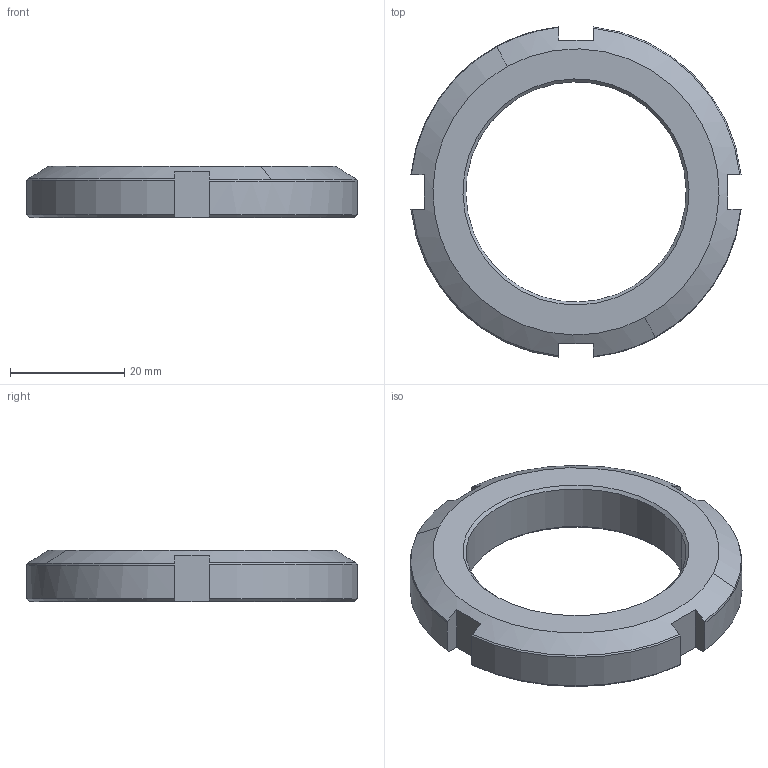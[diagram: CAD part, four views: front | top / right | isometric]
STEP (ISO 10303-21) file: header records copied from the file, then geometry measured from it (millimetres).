
FILE_DESCRIPTION(('CATIA V5 STEP Exchange'),'2;1');
FILE_NAME('\\Kjf-102\kjf_tc\Hydraulic_Clamp\Standard\Mounting Base Accessories\MBR\MBR-4009_-\MBR-4009_-_.stp','2026-08-10T04:03:04+00:00',('none'),('none'),'CATIA Version 5 Release 19 SP 6 (IN-10)','CATIA V5 STEP AP203','none');
FILE_SCHEMA(('CONFIG_CONTROL_DESIGN'));
Length unit declared in the file: millimetre
Products named in the file (1): MBR-4010_-
Bounding box: 57.69 x 57.69 x 9 mm (x, y, z)
Volume: 12011.5 mm3; surface area: 5289.4 mm2
Topology: 1 solids, 1 shells, 36 faces, 96 edges, 62 vertices
Faces by surface type: cone 16, plane 14, cylinder 6
Entity records: 1181 total; most frequent: CARTESIAN_POINT 314, ORIENTED_EDGE 192, DIRECTION 130, EDGE_CURVE 96, AXIS2_PLACEMENT_3D 62, VERTEX_POINT 62, VECTOR 38, EDGE_LOOP 38
